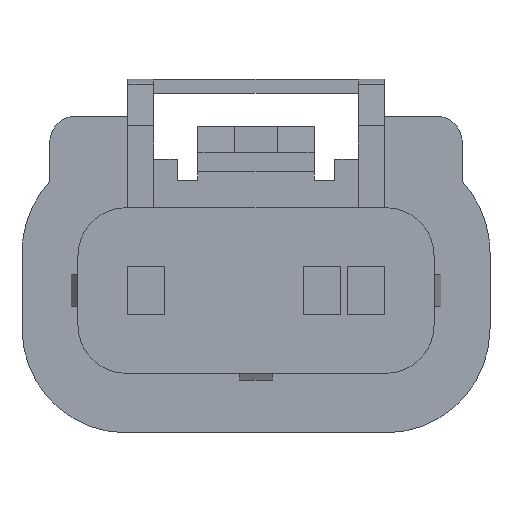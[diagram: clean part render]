
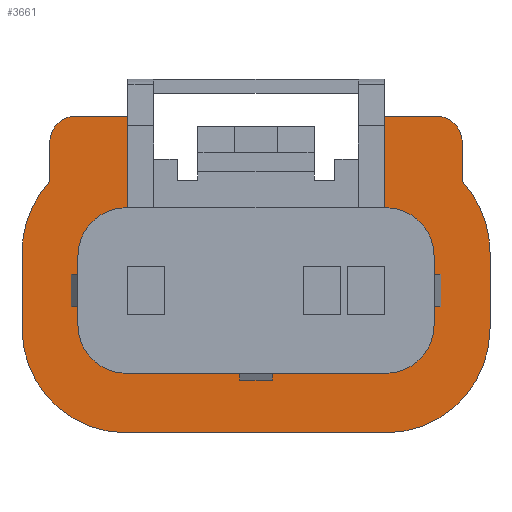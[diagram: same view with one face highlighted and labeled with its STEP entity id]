
A CAD part, left-side view. The second image highlights one B-rep face of the part: STEP entity #3661.
In plain terms, the highlighted planar face has unit normal (-1, 0, 0).
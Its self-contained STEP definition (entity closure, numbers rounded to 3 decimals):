
#674=CARTESIAN_POINT('Axis2P3D Location',(-19.88,0.,0.)) ;
#2503=CARTESIAN_POINT('Vertex',(-19.88,-7.4,12.99)) ;
#2506=CARTESIAN_POINT('Line Origine',(-19.88,-7.4,15.625)) ;
#2510=CARTESIAN_POINT('Vertex',(-19.88,-7.4,18.26)) ;
#2539=CARTESIAN_POINT('Vertex',(-19.88,7.4,18.26)) ;
#2542=CARTESIAN_POINT('Line Origine',(-19.88,7.4,15.625)) ;
#2546=CARTESIAN_POINT('Vertex',(-19.88,7.4,12.99)) ;
#2571=CARTESIAN_POINT('Line Origine',(-19.88,8.9,18.26)) ;
#2575=CARTESIAN_POINT('Vertex',(-19.88,10.4,18.26)) ;
#2590=CARTESIAN_POINT('Line Origine',(-19.88,-8.9,18.26)) ;
#2594=CARTESIAN_POINT('Vertex',(-19.88,-10.4,18.26)) ;
#2614=CARTESIAN_POINT('Axis2P3D Location',(-19.88,-10.4,16.76)) ;
#2618=CARTESIAN_POINT('Vertex',(-19.88,-11.9,16.76)) ;
#2638=CARTESIAN_POINT('Line Origine',(-19.88,-11.9,15.627)) ;
#2642=CARTESIAN_POINT('Vertex',(-19.88,-11.9,14.493)) ;
#2666=CARTESIAN_POINT('Vertex',(-19.88,-13.5,10.41)) ;
#2669=CARTESIAN_POINT('Axis2P3D Location',(-19.88,-7.49,10.41)) ;
#2686=CARTESIAN_POINT('Line Origine',(-19.88,-13.5,8.21)) ;
#2690=CARTESIAN_POINT('Vertex',(-19.88,-13.5,6.01)) ;
#2718=CARTESIAN_POINT('Vertex',(-19.88,13.5,6.01)) ;
#2721=CARTESIAN_POINT('Line Origine',(-19.88,13.5,8.21)) ;
#2725=CARTESIAN_POINT('Vertex',(-19.88,13.5,10.41)) ;
#2753=CARTESIAN_POINT('Vertex',(-19.88,11.9,14.493)) ;
#2756=CARTESIAN_POINT('Axis2P3D Location',(-19.88,7.49,10.41)) ;
#2773=CARTESIAN_POINT('Line Origine',(-19.88,11.9,15.627)) ;
#2777=CARTESIAN_POINT('Vertex',(-19.88,11.9,16.76)) ;
#2797=CARTESIAN_POINT('Axis2P3D Location',(-19.88,10.4,16.76)) ;
#2818=CARTESIAN_POINT('Vertex',(-19.88,-7.49,0.)) ;
#2821=CARTESIAN_POINT('Axis2P3D Location',(-19.88,-7.49,6.01)) ;
#2842=CARTESIAN_POINT('Vertex',(-19.88,7.49,0.)) ;
#2845=CARTESIAN_POINT('Line Origine',(-19.88,0.,0.)) ;
#2862=CARTESIAN_POINT('Axis2P3D Location',(-19.88,7.49,6.01)) ;
#3075=CARTESIAN_POINT('Vertex',(-19.88,-10.27,6.21)) ;
#3078=CARTESIAN_POINT('Line Origine',(-19.88,-10.27,8.21)) ;
#3082=CARTESIAN_POINT('Vertex',(-19.88,-10.27,10.21)) ;
#3140=CARTESIAN_POINT('Vertex',(-19.88,-7.49,3.43)) ;
#3143=CARTESIAN_POINT('Axis2P3D Location',(-19.88,-7.49,6.21)) ;
#3164=CARTESIAN_POINT('Vertex',(-19.88,7.49,3.43)) ;
#3167=CARTESIAN_POINT('Line Origine',(-19.88,0.,3.43)) ;
#3222=CARTESIAN_POINT('Vertex',(-19.88,10.27,6.21)) ;
#3225=CARTESIAN_POINT('Axis2P3D Location',(-19.88,7.49,6.21)) ;
#3246=CARTESIAN_POINT('Vertex',(-19.88,10.27,10.21)) ;
#3249=CARTESIAN_POINT('Line Origine',(-19.88,10.27,8.21)) ;
#3304=CARTESIAN_POINT('Vertex',(-19.88,7.49,12.99)) ;
#3307=CARTESIAN_POINT('Axis2P3D Location',(-19.88,7.49,10.21)) ;
#3319=CARTESIAN_POINT('Line Origine',(-19.88,7.445,12.99)) ;
#3335=CARTESIAN_POINT('Vertex',(-19.88,-7.49,12.99)) ;
#3338=CARTESIAN_POINT('Line Origine',(-19.88,-7.445,12.99)) ;
#3355=CARTESIAN_POINT('Axis2P3D Location',(-19.88,-7.49,10.21)) ;
#675=DIRECTION('Axis2P3D Direction',(1.,0.,0.)) ;
#676=DIRECTION('Axis2P3D XDirection',(0.,1.,0.)) ;
#2507=DIRECTION('Vector Direction',(0.,0.,-1.)) ;
#2543=DIRECTION('Vector Direction',(0.,0.,-1.)) ;
#2572=DIRECTION('Vector Direction',(0.,1.,0.)) ;
#2591=DIRECTION('Vector Direction',(0.,1.,0.)) ;
#2615=DIRECTION('Axis2P3D Direction',(-1.,0.,0.)) ;
#2639=DIRECTION('Vector Direction',(0.,0.,1.)) ;
#2670=DIRECTION('Axis2P3D Direction',(1.,0.,0.)) ;
#2687=DIRECTION('Vector Direction',(0.,0.,-1.)) ;
#2722=DIRECTION('Vector Direction',(0.,0.,1.)) ;
#2757=DIRECTION('Axis2P3D Direction',(1.,0.,0.)) ;
#2774=DIRECTION('Vector Direction',(0.,0.,-1.)) ;
#2798=DIRECTION('Axis2P3D Direction',(-1.,0.,0.)) ;
#2822=DIRECTION('Axis2P3D Direction',(1.,0.,0.)) ;
#2846=DIRECTION('Vector Direction',(0.,-1.,0.)) ;
#2863=DIRECTION('Axis2P3D Direction',(1.,0.,0.)) ;
#3079=DIRECTION('Vector Direction',(0.,0.,1.)) ;
#3144=DIRECTION('Axis2P3D Direction',(1.,0.,0.)) ;
#3168=DIRECTION('Vector Direction',(0.,-1.,0.)) ;
#3226=DIRECTION('Axis2P3D Direction',(1.,0.,0.)) ;
#3250=DIRECTION('Vector Direction',(0.,0.,-1.)) ;
#3308=DIRECTION('Axis2P3D Direction',(1.,0.,0.)) ;
#3320=DIRECTION('Vector Direction',(0.,1.,0.)) ;
#3339=DIRECTION('Vector Direction',(0.,1.,0.)) ;
#3356=DIRECTION('Axis2P3D Direction',(1.,0.,0.)) ;
#677=AXIS2_PLACEMENT_3D('Plane Axis2P3D',#674,#675,#676) ;
#2616=AXIS2_PLACEMENT_3D('Circle Axis2P3D',#2614,#2615,$) ;
#2671=AXIS2_PLACEMENT_3D('Circle Axis2P3D',#2669,#2670,$) ;
#2758=AXIS2_PLACEMENT_3D('Circle Axis2P3D',#2756,#2757,$) ;
#2799=AXIS2_PLACEMENT_3D('Circle Axis2P3D',#2797,#2798,$) ;
#2823=AXIS2_PLACEMENT_3D('Circle Axis2P3D',#2821,#2822,$) ;
#2864=AXIS2_PLACEMENT_3D('Circle Axis2P3D',#2862,#2863,$) ;
#3145=AXIS2_PLACEMENT_3D('Circle Axis2P3D',#3143,#3144,$) ;
#3227=AXIS2_PLACEMENT_3D('Circle Axis2P3D',#3225,#3226,$) ;
#3309=AXIS2_PLACEMENT_3D('Circle Axis2P3D',#3307,#3308,$) ;
#3357=AXIS2_PLACEMENT_3D('Circle Axis2P3D',#3355,#3356,$) ;
#3636=ORIENTED_EDGE('',*,*,#2801,.F.) ;
#3637=ORIENTED_EDGE('',*,*,#2779,.T.) ;
#3638=ORIENTED_EDGE('',*,*,#2760,.F.) ;
#3639=ORIENTED_EDGE('',*,*,#2727,.F.) ;
#3640=ORIENTED_EDGE('',*,*,#2866,.F.) ;
#3641=ORIENTED_EDGE('',*,*,#2849,.T.) ;
#3642=ORIENTED_EDGE('',*,*,#2825,.F.) ;
#3643=ORIENTED_EDGE('',*,*,#2692,.F.) ;
#3644=ORIENTED_EDGE('',*,*,#2673,.F.) ;
#3645=ORIENTED_EDGE('',*,*,#2644,.T.) ;
#3646=ORIENTED_EDGE('',*,*,#2620,.F.) ;
#3647=ORIENTED_EDGE('',*,*,#2596,.T.) ;
#3648=ORIENTED_EDGE('',*,*,#2512,.T.) ;
#3649=ORIENTED_EDGE('',*,*,#3342,.F.) ;
#3650=ORIENTED_EDGE('',*,*,#3359,.T.) ;
#3651=ORIENTED_EDGE('',*,*,#3084,.F.) ;
#3652=ORIENTED_EDGE('',*,*,#3147,.T.) ;
#3653=ORIENTED_EDGE('',*,*,#3171,.F.) ;
#3654=ORIENTED_EDGE('',*,*,#3229,.T.) ;
#3655=ORIENTED_EDGE('',*,*,#3253,.F.) ;
#3656=ORIENTED_EDGE('',*,*,#3311,.T.) ;
#3657=ORIENTED_EDGE('',*,*,#3323,.F.) ;
#3658=ORIENTED_EDGE('',*,*,#2548,.F.) ;
#3659=ORIENTED_EDGE('',*,*,#2577,.T.) ;
#2508=VECTOR('Line Direction',#2507,1.) ;
#2544=VECTOR('Line Direction',#2543,1.) ;
#2573=VECTOR('Line Direction',#2572,1.) ;
#2592=VECTOR('Line Direction',#2591,1.) ;
#2640=VECTOR('Line Direction',#2639,1.) ;
#2688=VECTOR('Line Direction',#2687,1.) ;
#2723=VECTOR('Line Direction',#2722,1.) ;
#2775=VECTOR('Line Direction',#2774,1.) ;
#2847=VECTOR('Line Direction',#2846,1.) ;
#3080=VECTOR('Line Direction',#3079,1.) ;
#3169=VECTOR('Line Direction',#3168,1.) ;
#3251=VECTOR('Line Direction',#3250,1.) ;
#3321=VECTOR('Line Direction',#3320,1.) ;
#3340=VECTOR('Line Direction',#3339,1.) ;
#3661=ADVANCED_FACE('BODY',(#3660),#678,.F.) ;
#2617=CIRCLE('generated circle',#2616,1.5) ;
#2672=CIRCLE('generated circle',#2671,6.01) ;
#2759=CIRCLE('generated circle',#2758,6.01) ;
#2800=CIRCLE('generated circle',#2799,1.5) ;
#2824=CIRCLE('generated circle',#2823,6.01) ;
#2865=CIRCLE('generated circle',#2864,6.01) ;
#3146=CIRCLE('generated circle',#3145,2.78) ;
#3228=CIRCLE('generated circle',#3227,2.78) ;
#3310=CIRCLE('generated circle',#3309,2.78) ;
#3358=CIRCLE('generated circle',#3357,2.78) ;
#2512=EDGE_CURVE('',#2511,#2504,#2509,.T.) ;
#2548=EDGE_CURVE('',#2540,#2547,#2545,.T.) ;
#2577=EDGE_CURVE('',#2540,#2576,#2574,.T.) ;
#2596=EDGE_CURVE('',#2595,#2511,#2593,.T.) ;
#2620=EDGE_CURVE('',#2595,#2619,#2617,.F.) ;
#2644=EDGE_CURVE('',#2643,#2619,#2641,.T.) ;
#2673=EDGE_CURVE('',#2643,#2667,#2672,.T.) ;
#2692=EDGE_CURVE('',#2667,#2691,#2689,.T.) ;
#2727=EDGE_CURVE('',#2719,#2726,#2724,.T.) ;
#2760=EDGE_CURVE('',#2726,#2754,#2759,.T.) ;
#2779=EDGE_CURVE('',#2778,#2754,#2776,.T.) ;
#2801=EDGE_CURVE('',#2778,#2576,#2800,.F.) ;
#2825=EDGE_CURVE('',#2691,#2819,#2824,.T.) ;
#2849=EDGE_CURVE('',#2843,#2819,#2848,.T.) ;
#2866=EDGE_CURVE('',#2843,#2719,#2865,.T.) ;
#3084=EDGE_CURVE('',#3076,#3083,#3081,.T.) ;
#3147=EDGE_CURVE('',#3076,#3141,#3146,.T.) ;
#3171=EDGE_CURVE('',#3165,#3141,#3170,.T.) ;
#3229=EDGE_CURVE('',#3165,#3223,#3228,.T.) ;
#3253=EDGE_CURVE('',#3247,#3223,#3252,.T.) ;
#3311=EDGE_CURVE('',#3247,#3305,#3310,.T.) ;
#3323=EDGE_CURVE('',#2547,#3305,#3322,.T.) ;
#3342=EDGE_CURVE('',#3336,#2504,#3341,.T.) ;
#3359=EDGE_CURVE('',#3336,#3083,#3358,.T.) ;
#3635=EDGE_LOOP('',(#3636,#3637,#3638,#3639,#3640,#3641,#3642,#3643,#3644,#3645,#3646,#3647,#3648,#3649,#3650,#3651,#3652,#3653,#3654,#3655,#3656,#3657,#3658,#3659)) ;
#3660=FACE_OUTER_BOUND('',#3635,.T.) ;
#2509=LINE('Line',#2506,#2508) ;
#2545=LINE('Line',#2542,#2544) ;
#2574=LINE('Line',#2571,#2573) ;
#2593=LINE('Line',#2590,#2592) ;
#2641=LINE('Line',#2638,#2640) ;
#2689=LINE('Line',#2686,#2688) ;
#2724=LINE('Line',#2721,#2723) ;
#2776=LINE('Line',#2773,#2775) ;
#2848=LINE('Line',#2845,#2847) ;
#3081=LINE('Line',#3078,#3080) ;
#3170=LINE('Line',#3167,#3169) ;
#3252=LINE('Line',#3249,#3251) ;
#3322=LINE('Line',#3319,#3321) ;
#3341=LINE('Line',#3338,#3340) ;
#678=PLANE('',#677) ;
#2504=VERTEX_POINT('',#2503) ;
#2511=VERTEX_POINT('',#2510) ;
#2540=VERTEX_POINT('',#2539) ;
#2547=VERTEX_POINT('',#2546) ;
#2576=VERTEX_POINT('',#2575) ;
#2595=VERTEX_POINT('',#2594) ;
#2619=VERTEX_POINT('',#2618) ;
#2643=VERTEX_POINT('',#2642) ;
#2667=VERTEX_POINT('',#2666) ;
#2691=VERTEX_POINT('',#2690) ;
#2719=VERTEX_POINT('',#2718) ;
#2726=VERTEX_POINT('',#2725) ;
#2754=VERTEX_POINT('',#2753) ;
#2778=VERTEX_POINT('',#2777) ;
#2819=VERTEX_POINT('',#2818) ;
#2843=VERTEX_POINT('',#2842) ;
#3076=VERTEX_POINT('',#3075) ;
#3083=VERTEX_POINT('',#3082) ;
#3141=VERTEX_POINT('',#3140) ;
#3165=VERTEX_POINT('',#3164) ;
#3223=VERTEX_POINT('',#3222) ;
#3247=VERTEX_POINT('',#3246) ;
#3305=VERTEX_POINT('',#3304) ;
#3336=VERTEX_POINT('',#3335) ;
